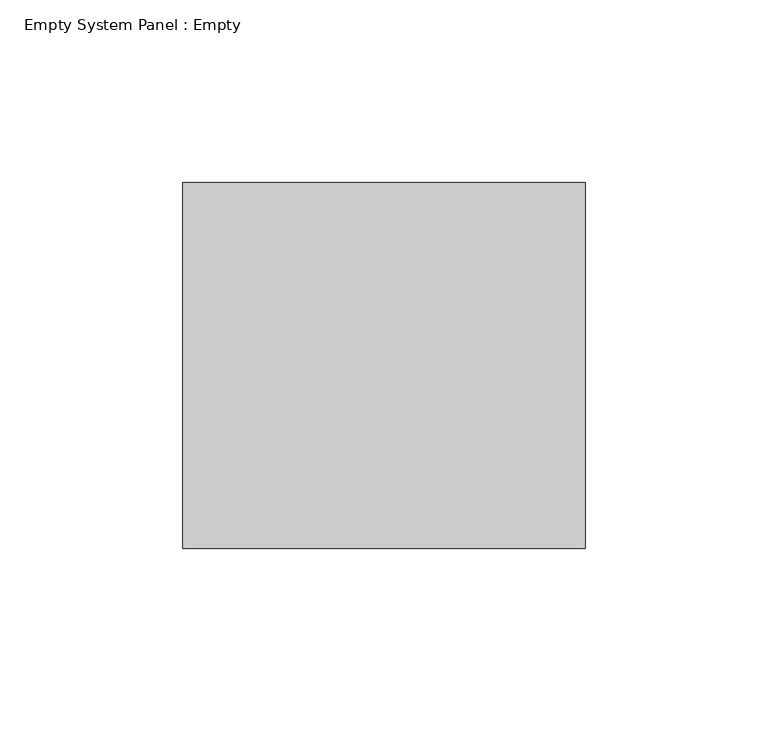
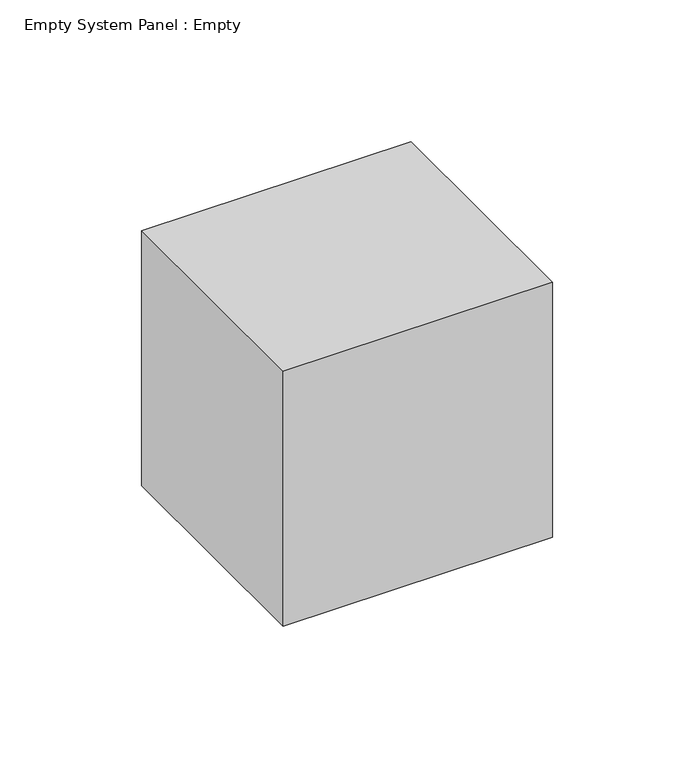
"""IFC4 building model written with IfcOpenShell, lengths in millimetres: plate geometry, Empty System Panel : Empty."""

import ifcopenshell
import ifcopenshell.guid

model = None  # the IFC model being written
_history = None  # IfcOwnerHistory: only IFC2X3 demands one
_inside = {}  # id of a spatial element -> (the spatial element, [elements in it])
_under = {}  # id of a project, library or spatial element -> (it, [spatial elements below it])
_declared = {}  # id of a project -> (the project, [libraries it declares])
_typed = {}  # id of a type object -> (the type object, [elements of that type])
_made_of = {}  # id of a material, layer set ... -> (it, [elements and type objects made of it])


def new_model(schema):
    """Start an empty IFC model of exactly this schema.

    Asked for "IFC4X3", IfcOpenShell would pick the latest addendum, in which some entities
    have other attributes; the version numbers below select the first issue.
    IFC2X3 requires an IfcOwnerHistory on every rooted entity: one is made here for all.
    """
    global model, _history
    if schema == "IFC4X3":
        model = ifcopenshell.file(schema_version=(4, 3, 0, 0))
    else:
        model = ifcopenshell.file(schema=schema)
    _inside.clear()
    _under.clear()
    _declared.clear()
    _typed.clear()
    _made_of.clear()
    _history = None
    if model.schema == "IFC2X3":
        org = make("IfcOrganization", Name="unknown")
        user = make(
            "IfcPersonAndOrganization",
            ThePerson=make("IfcPerson", FamilyName="unknown"),
            TheOrganization=org,
        )
        app = make(
            "IfcApplication",
            ApplicationDeveloper=org,
            Version="unknown",
            ApplicationFullName="unknown",
            ApplicationIdentifier="unknown",
        )
        _history = make(
            "IfcOwnerHistory",
            OwningUser=user,
            OwningApplication=app,
            ChangeAction="ADDED",
            CreationDate=0,
        )
    return model


def make(cls, **values):
    """One entity of the class cls with the attributes given. An attribute that is None is left unset."""
    return model.create_entity(
        cls, **{name: value for name, value in values.items() if value is not None}
    )


def rooted(cls, **values):
    """An entity with a GlobalId (a new one), such as an element, a storey or a relation."""
    return make(cls, GlobalId=ifcopenshell.guid.new(), OwnerHistory=_history, **values)


def si_unit(unit_type, name, prefix=None):
    """IfcSIUnit, for example si_unit("LENGTHUNIT", "METRE", prefix="MILLI")."""
    return make("IfcSIUnit", UnitType=unit_type, Prefix=prefix, Name=name)


def assignment(units):
    """IfcUnitAssignment: the units of a project."""
    return None if units is None else make("IfcUnitAssignment", Units=units)


def point(xyz):
    """IfcCartesianPoint."""
    return None if xyz is None else make("IfcCartesianPoint", Coordinates=xyz)


def direction(xyz):
    """IfcDirection."""
    return None if xyz is None else make("IfcDirection", DirectionRatios=xyz)


def frame(location, z_axis=None, x_axis=None):
    """IfcAxis2Placement3D, a coordinate frame: its origin and axes. An axis left out is left unset."""
    return make(
        "IfcAxis2Placement3D",
        Location=point(location),
        Axis=direction(z_axis),
        RefDirection=direction(x_axis),
    )


def origin():
    """The frame at (0, 0, 0) with its axes left unset."""
    return frame((0.0, 0.0, 0.0))


def origin_with_axes():
    """The frame at (0, 0, 0) with the z axis (0, 0, 1) and the x axis (1, 0, 0) written out."""
    return frame((0.0, 0.0, 0.0), z_axis=(0.0, 0.0, 1.0), x_axis=(1.0, 0.0, 0.0))


def place(relative_to, where):
    """IfcLocalPlacement: puts the frame where relative to a parent placement (None: the world)."""
    return make(
        "IfcLocalPlacement", PlacementRelTo=relative_to, RelativePlacement=where
    )


def context(
    kind, dimensions, precision=None, world=None, true_north=None, identifier=None
):
    """IfcGeometricRepresentationContext, for example the 3D "Model" context."""
    return make(
        "IfcGeometricRepresentationContext",
        ContextIdentifier=identifier,
        ContextType=kind,
        CoordinateSpaceDimension=dimensions,
        Precision=precision,
        WorldCoordinateSystem=world,
        TrueNorth=true_north,
    )


def project(units=None, contexts=None):
    """IfcProject with its units and contexts."""
    return rooted(
        "IfcProject",
        Name="project",
        RepresentationContexts=contexts,
        UnitsInContext=assignment(units),
    )


def spatial(cls, under=None, at=None, **own):
    """A site, building, storey or space (cls), placed at a placement, below another one or the project."""
    s = rooted(cls, ObjectPlacement=at, **own)
    if under is not None:
        _under.setdefault(under.id(), (under, []))[1].append(s)
    return s


def polyline(points):
    """IfcPolyline through the points."""
    return make("IfcPolyline", Points=[point(p) for p in points])


def outline(outer, holes=None, kind="AREA"):
    """IfcArbitraryClosedProfileDef: a profile drawn as a closed curve; with holes, ...WithVoids."""
    if holes is None:
        return make("IfcArbitraryClosedProfileDef", ProfileType=kind, OuterCurve=outer)
    return make(
        "IfcArbitraryProfileDefWithVoids",
        ProfileType=kind,
        OuterCurve=outer,
        InnerCurves=holes,
    )


def extrude(swept, where, along, depth):
    """IfcExtrudedAreaSolid: the profile swept, set in the frame where, extruded along a direction by depth."""
    return make(
        "IfcExtrudedAreaSolid",
        SweptArea=swept,
        Position=where,
        ExtrudedDirection=direction(along),
        Depth=depth,
    )


def shape(context_of_items, identifier, shape_type, items):
    """IfcShapeRepresentation: the items that make up one representation, for example the "Body"."""
    return make(
        "IfcShapeRepresentation",
        ContextOfItems=context_of_items,
        RepresentationIdentifier=identifier,
        RepresentationType=shape_type,
        Items=items,
    )


def source(mapping_origin, context_of_items, identifier, shape_type, items):
    """IfcRepresentationMap: a shape defined once, which mapped items show again and again."""
    return make(
        "IfcRepresentationMap",
        MappingOrigin=mapping_origin,
        MappedRepresentation=shape(context_of_items, identifier, shape_type, items),
    )


def transform(
    local_origin,
    x_axis=None,
    y_axis=None,
    z_axis=None,
    scale=None,
    scale2=None,
    scale3=None,
    uniform=True,
):
    """IfcCartesianTransformationOperator3D, or its non-uniform kind. x_axis, y_axis, z_axis: its Axis1, 2, 3."""
    if uniform:
        return make(
            "IfcCartesianTransformationOperator3D",
            Axis1=direction(x_axis),
            Axis2=direction(y_axis),
            LocalOrigin=point(local_origin),
            Scale=scale,
            Axis3=direction(z_axis),
        )
    return make(
        "IfcCartesianTransformationOperator3DnonUniform",
        Axis1=direction(x_axis),
        Axis2=direction(y_axis),
        LocalOrigin=point(local_origin),
        Scale=scale,
        Axis3=direction(z_axis),
        Scale2=scale2,
        Scale3=scale3,
    )


def mapped(mapping_source, mapping_target):
    """IfcMappedItem: shows the shape of a source again, moved by a transform."""
    return make(
        "IfcMappedItem", MappingSource=mapping_source, MappingTarget=mapping_target
    )


def made_of(thing, what):
    """Note that an element or type object is made of a material, layer set ...; save() writes the relation."""
    if what is not None:
        _made_of.setdefault(what.id(), (what, []))[1].append(thing)
    return thing


def element(
    cls,
    number,
    at=None,
    inside=None,
    cuts=None,
    type_object=None,
    material=None,
    context=None,
    identifier="Body",
    shape_type=None,
    held_by="IfcProductDefinitionShape",
    body=None,
    shapes=None,
    **own,
):
    """One element of the class cls, such as IfcWall. Its Tag is "e" and its number.

    at: its placement. inside: the storey or other place that contains it. cuts: it is an
    opening in that element (IfcRelVoidsElement). A single representation is given by context,
    identifier, shape_type and body (its items); several are given by shapes. held_by: the class
    of the entity that holds the representations. save() writes the other relations.
    """
    e = rooted(cls, Tag="e%d" % number, ObjectPlacement=at, **own)
    if body is not None:
        shapes = [shape(context, identifier, shape_type, body)]
    if shapes is not None:
        e.Representation = make(held_by, Representations=shapes)
    if inside is not None:
        _inside.setdefault(inside.id(), (inside, []))[1].append(e)
    if cuts is not None:
        rooted(
            "IfcRelVoidsElement", RelatingBuildingElement=cuts, RelatedOpeningElement=e
        )
    if type_object is not None:
        _typed.setdefault(type_object.id(), (type_object, []))[1].append(e)
    return made_of(e, material)


def aggregate(whole, parts):
    """IfcRelAggregates: a whole, such as a stair, and the parts it consists of."""
    return rooted("IfcRelAggregates", RelatingObject=whole, RelatedObjects=parts)


def save(model, path):
    """Write the relations noted so far, then the file.

    IfcRelAggregates (storeys below a building ...), IfcRelContainedInSpatialStructure (elements
    in a storey), IfcRelDefinesByType, IfcRelAssociatesMaterial and IfcRelDeclares: one each for
    every whole, place, type object, material and project.
    """
    for whole, parts in _under.values():
        aggregate(whole, parts)
    for where, things in _inside.values():
        rooted(
            "IfcRelContainedInSpatialStructure",
            RelatedElements=things,
            RelatingStructure=where,
        )
    for kind, things in _typed.values():
        rooted("IfcRelDefinesByType", RelatedObjects=things, RelatingType=kind)
    for what, things in _made_of.values():
        rooted("IfcRelAssociatesMaterial", RelatedObjects=things, RelatingMaterial=what)
    for by, libraries in _declared.values():
        rooted("IfcRelDeclares", RelatingContext=by, RelatedDefinitions=libraries)
    model.write(path)


def empty_system_panel_empty_3b500fad(model_context):
    return source(origin(), model_context, "Body", "SweptSolid", [
        extrude(outline(polyline([(55.0, 50.0), (-55.0, 50.0), (-55.0, 150.0), (55.0, 150.0), (55.0, 50.0)])), origin_with_axes(), (0.0, 0.0, 1.0), 110.0),
    ])


if __name__ == "__main__":
    model = new_model("IFC4")
    model_context = context("Model", 3, world=origin())
    ifc_project = project(units=[si_unit("LENGTHUNIT", "METRE", prefix="MILLI")], contexts=[model_context])
    site = spatial("IfcSite", under=ifc_project)
    building = spatial("IfcBuilding", under=site)
    placement = place(None, origin())
    empty_system_panel_empty_shape = empty_system_panel_empty_3b500fad(model_context)
    element("IfcPlate", 1, ObjectType="Empty System Panel : Empty", at=placement, inside=building, context=model_context, shape_type="MappedRepresentation", body=[
        mapped(empty_system_panel_empty_shape, transform((0.0, 0.0, 0.0), x_axis=(1.0, 0.0, 0.0), y_axis=(0.0, 1.0, 0.0), z_axis=(0.0, 0.0, 1.0))),
    ])
    save(model, "model.ifc")
